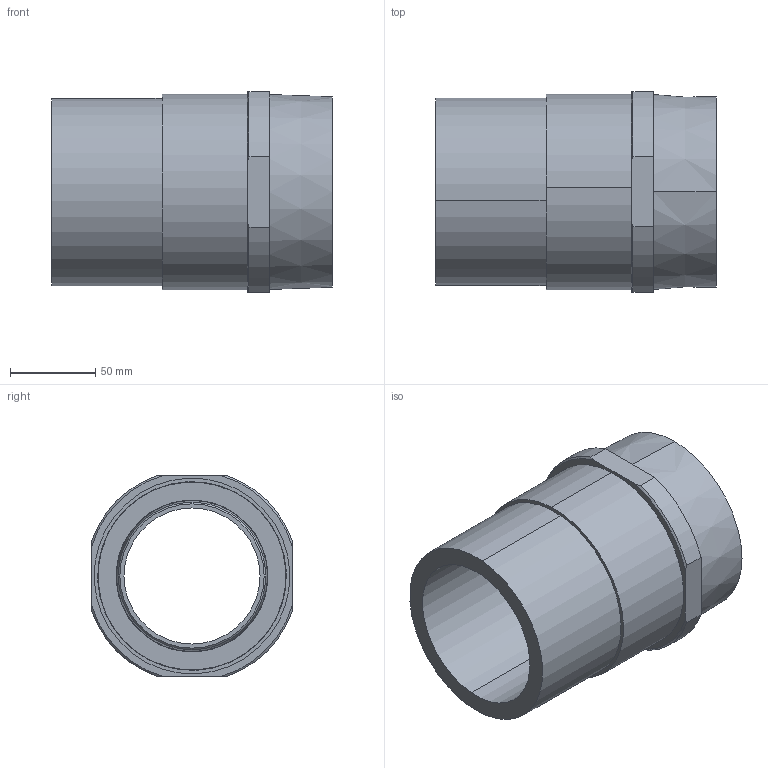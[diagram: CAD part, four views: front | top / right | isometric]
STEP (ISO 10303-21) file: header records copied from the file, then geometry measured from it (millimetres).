
FILE_DESCRIPTION (( 'STEP AP214' ), '1' );
FILE_NAME ('KP_C17-110M.step', '2012-09-03T10:40:19', ( 'robinj' ), ( 'Microsoft' ), 'SwSTEP 2.0', 'SolidWorks 2012', '' );
FILE_SCHEMA (( 'AUTOMOTIVE_DESIGN' ));
Length unit declared in the file: millimetre
Products named in the file (1): KP_C17-110M
Bounding box: 165 x 118 x 118 mm (x, y, z)
Volume: 649950.9 mm3; surface area: 186909.2 mm2
Topology: 3 solids, 3 shells, 56 faces, 122 edges, 76 vertices
Faces by surface type: cylinder 22, cone 14, plane 14, torus 6
Entity records: 2236 total; most frequent: DIRECTION 298, CARTESIAN_POINT 279, ORIENTED_EDGE 244, AXIS2_PLACEMENT_3D 127, EDGE_CURVE 122, VERTEX_POINT 76, CIRCLE 70, EDGE_LOOP 66
